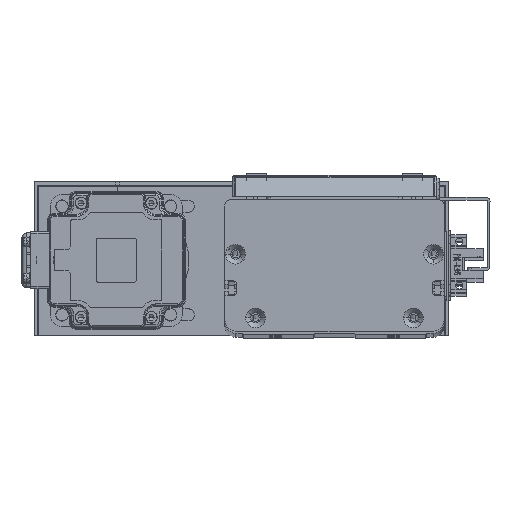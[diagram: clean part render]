
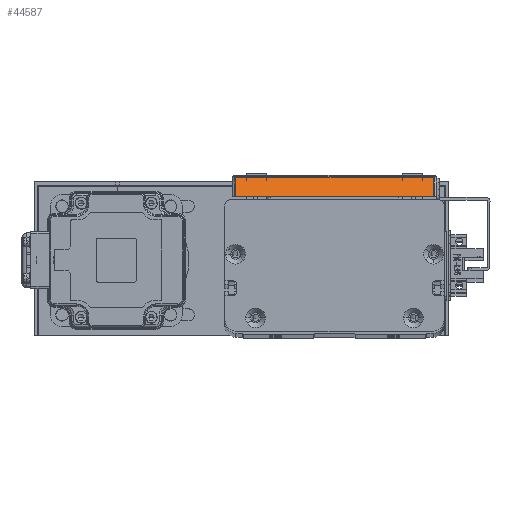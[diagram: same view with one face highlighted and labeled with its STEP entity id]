
A CAD part, top view. The second image highlights one B-rep face of the part: STEP entity #44587.
In plain terms, the highlighted planar face has unit normal (0, 0.707, 0.707) as drawn and (-0.707, 0, -0.707) by its records, which use the part's own axes.
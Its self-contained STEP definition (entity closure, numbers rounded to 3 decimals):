
#2276 = VERTEX_POINT ( 'NONE', #8665 ) ;
#3802 = LINE ( 'NONE', #32465, #16605 ) ;
#8665 = CARTESIAN_POINT ( 'NONE',  ( -57.298, 91.7, -5.102 ) ) ;
#12023 = LINE ( 'NONE', #45914, #19706 ) ;
#15830 = CARTESIAN_POINT ( 'NONE',  ( -68., 93.4, 5.6 ) ) ;
#16385 = CARTESIAN_POINT ( 'NONE',  ( -66.5, 1.7, 4.1 ) ) ;
#16605 = VECTOR ( 'NONE', #21983, 1000. ) ;
#16660 = ORIENTED_EDGE ( 'NONE', *, *, #17291, .T. ) ;
#17291 = EDGE_CURVE ( 'NONE', #2276, #35383, #68932, .T. ) ;
#19706 = VECTOR ( 'NONE', #62314, 1000. ) ;
#20399 = DIRECTION ( 'NONE',  ( -0.707, 0., -0.707 ) ) ;
#21983 = DIRECTION ( 'NONE',  ( 0., 1., 0. ) ) ;
#24575 = VERTEX_POINT ( 'NONE', #64843 ) ;
#25875 = DIRECTION ( 'NONE',  ( -0.707, 0., 0.707 ) ) ;
#27207 = AXIS2_PLACEMENT_3D ( 'NONE', #15830, #20399, #25875 ) ;
#29817 = CARTESIAN_POINT ( 'NONE',  ( -68., 91.7, 5.6 ) ) ;
#30113 = LINE ( 'NONE', #29817, #64305 ) ;
#30855 = ORIENTED_EDGE ( 'NONE', *, *, #45996, .T. ) ;
#32422 = EDGE_LOOP ( 'NONE', ( #68090, #53101, #30855, #16660 ) ) ;
#32465 = CARTESIAN_POINT ( 'NONE',  ( -66.5, 93.4, 4.1 ) ) ;
#35383 = VERTEX_POINT ( 'NONE', #68286 ) ;
#37750 = VERTEX_POINT ( 'NONE', #16385 ) ;
#38580 = EDGE_CURVE ( 'NONE', #35383, #37750, #12023, .T. ) ;
#40392 = CARTESIAN_POINT ( 'NONE',  ( -57.298, 93.4, -5.102 ) ) ;
#41101 = DIRECTION ( 'NONE',  ( 0.707, 0., -0.707 ) ) ;
#44587 = ADVANCED_FACE ( 'NONE', ( #53367 ), #70049, .T. ) ;
#45914 = CARTESIAN_POINT ( 'NONE',  ( -68., 1.7, 5.6 ) ) ;
#45996 = EDGE_CURVE ( 'NONE', #24575, #2276, #30113, .T. ) ;
#53101 = ORIENTED_EDGE ( 'NONE', *, *, #66981, .T. ) ;
#53367 = FACE_OUTER_BOUND ( 'NONE', #32422, .T. ) ;
#58672 = VECTOR ( 'NONE', #61609, 1000. ) ;
#61609 = DIRECTION ( 'NONE',  ( 0., -1., 0. ) ) ;
#62314 = DIRECTION ( 'NONE',  ( -0.707, 0., 0.707 ) ) ;
#64305 = VECTOR ( 'NONE', #41101, 1000. ) ;
#64843 = CARTESIAN_POINT ( 'NONE',  ( -66.5, 91.7, 4.1 ) ) ;
#66981 = EDGE_CURVE ( 'NONE', #37750, #24575, #3802, .T. ) ;
#68090 = ORIENTED_EDGE ( 'NONE', *, *, #38580, .T. ) ;
#68286 = CARTESIAN_POINT ( 'NONE',  ( -57.298, 1.7, -5.102 ) ) ;
#68932 = LINE ( 'NONE', #40392, #58672 ) ;
#70049 = PLANE ( 'NONE',  #27207 ) ;
